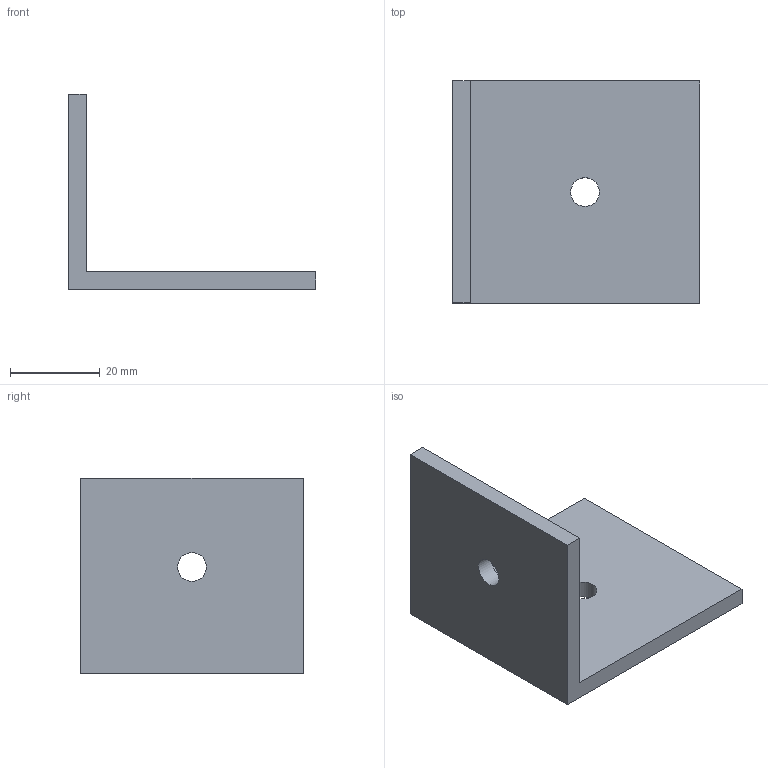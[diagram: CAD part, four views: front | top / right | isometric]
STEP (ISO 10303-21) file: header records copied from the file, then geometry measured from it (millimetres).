
FILE_DESCRIPTION(('Mechanical CAD reference from nasji.com'),'2;1');
FILE_NAME('NASJI.step','',(''),(''),'','NASJI distribution','');
FILE_SCHEMA(('AUTOMOTIVE_DESIGN { 1 0 10303 214 1 1 1 1 }'));
Length unit declared in the file: millimetre
Products named in the file (1): Open CASCADE STEP translator 7.8 137
Bounding box: 55 x 49.45 x 43.4 mm (x, y, z)
Volume: 18415 mm3; surface area: 10519.1 mm2
Topology: 1 solids, 1 shells, 10 faces, 24 edges, 16 vertices
Faces by surface type: plane 8, cylinder 2
Full cylindrical faces by diameter (mm): 6.4 x2
Entity records: 626 total; most frequent: CARTESIAN_POINT 113, DIRECTION 94, LINE 62, VECTOR 62, ORIENTED_EDGE 48, PCURVE 48, DEFINITIONAL_REPRESENTATION 48, EDGE_CURVE 24
